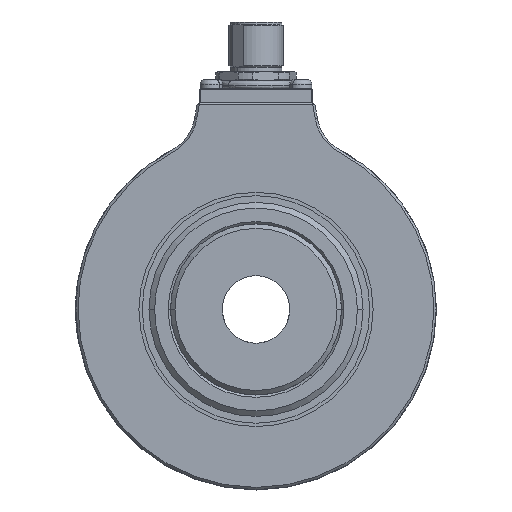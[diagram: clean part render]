
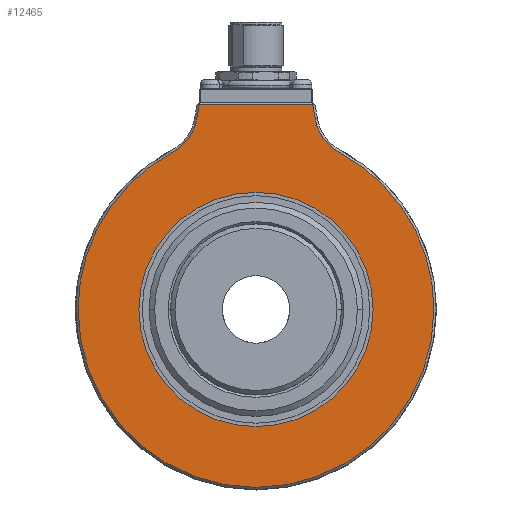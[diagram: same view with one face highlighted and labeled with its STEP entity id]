
A CAD part, left-side view. The second image highlights one B-rep face of the part: STEP entity #12465.
In plain terms, the highlighted planar face has unit normal (-1, 0, 0).
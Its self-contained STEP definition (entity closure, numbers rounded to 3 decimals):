
#59 = ORIENTED_EDGE ( 'NONE', *, *, #5131, .T. ) ;
#91 = ORIENTED_EDGE ( 'NONE', *, *, #8584, .T. ) ;
#604 = ORIENTED_EDGE ( 'NONE', *, *, #7840, .T. ) ;
#643 = ORIENTED_EDGE ( 'NONE', *, *, #4840, .T. ) ;
#653 = ORIENTED_EDGE ( 'NONE', *, *, #3924, .T. ) ;
#1402 = LINE ( 'NONE', #15128, #14177 ) ;
#1407 = VERTEX_POINT ( 'NONE', #9345 ) ;
#1432 = CARTESIAN_POINT ( 'NONE',  ( -26., 40., 0. ) ) ;
#1554 = CARTESIAN_POINT ( 'NONE',  ( -26., 21.188, -3.317 ) ) ;
#1599 = VERTEX_POINT ( 'NONE', #6008 ) ;
#1712 = VERTEX_POINT ( 'NONE', #2542 ) ;
#2092 = CARTESIAN_POINT ( 'NONE',  ( -26., 0., 0. ) ) ;
#2288 = DIRECTION ( 'NONE',  ( 0., 1., 0. ) ) ;
#2368 = AXIS2_PLACEMENT_3D ( 'NONE', #9652, #16630, #5529 ) ;
#2538 = DIRECTION ( 'NONE',  ( 0., -1., 0. ) ) ;
#2542 = CARTESIAN_POINT ( 'NONE',  ( -26., 13.141, 42.32 ) ) ;
#2576 = DIRECTION ( 'NONE',  ( 1., 0., 0. ) ) ;
#3013 = LINE ( 'NONE', #1554, #5884 ) ;
#3178 = DIRECTION ( 'NONE',  ( 1., 0., 0. ) ) ;
#3324 = CIRCLE ( 'NONE', #9751, 10.5 ) ;
#3357 = DIRECTION ( 'NONE',  ( 0., -1., 0. ) ) ;
#3594 = AXIS2_PLACEMENT_3D ( 'NONE', #12365, #17984, #14949 ) ;
#3834 = AXIS2_PLACEMENT_3D ( 'NONE', #15726, #3178, #3357 ) ;
#3924 = EDGE_CURVE ( 'NONE', #9240, #14915, #15107, .T. ) ;
#4512 = EDGE_CURVE ( 'NONE', #5287, #8942, #1402, .T. ) ;
#4840 = EDGE_CURVE ( 'NONE', #14915, #5287, #3324, .T. ) ;
#4933 = CARTESIAN_POINT ( 'NONE',  ( -26., 26., 0. ) ) ;
#5131 = EDGE_CURVE ( 'NONE', #8942, #1599, #10500, .T. ) ;
#5158 = VERTEX_POINT ( 'NONE', #4933 ) ;
#5287 = VERTEX_POINT ( 'NONE', #17929 ) ;
#5316 = ORIENTED_EDGE ( 'NONE', *, *, #4512, .T. ) ;
#5529 = DIRECTION ( 'NONE',  ( 0., 1., 0. ) ) ;
#5651 = EDGE_CURVE ( 'NONE', #1599, #1712, #3013, .T. ) ;
#5884 = VECTOR ( 'NONE', #8411, 1000. ) ;
#5962 = CIRCLE ( 'NONE', #16215, 26. ) ;
#6008 = CARTESIAN_POINT ( 'NONE',  ( -26., 12.58, 45.5 ) ) ;
#6192 = DIRECTION ( 'NONE',  ( -1., 0., 0. ) ) ;
#6332 = ORIENTED_EDGE ( 'NONE', *, *, #5651, .T. ) ;
#6814 = ORIENTED_EDGE ( 'NONE', *, *, #8774, .T. ) ;
#7801 = AXIS2_PLACEMENT_3D ( 'NONE', #17471, #6192, #10676 ) ;
#7825 = CARTESIAN_POINT ( 'NONE',  ( -26., -26., 0. ) ) ;
#7840 = EDGE_CURVE ( 'NONE', #12695, #5158, #14607, .T. ) ;
#7939 = CIRCLE ( 'NONE', #10554, 39.5 ) ;
#8216 = CARTESIAN_POINT ( 'NONE',  ( -26., -18.551, 34.873 ) ) ;
#8278 = CARTESIAN_POINT ( 'NONE',  ( -26., -12.58, 45.5 ) ) ;
#8411 = DIRECTION ( 'NONE',  ( 0., 0.174, -0.985 ) ) ;
#8584 = EDGE_CURVE ( 'NONE', #1712, #17481, #11708, .T. ) ;
#8628 = EDGE_LOOP ( 'NONE', ( #5316, #59, #6332, #91, #16079, #6814, #653, #643 ) ) ;
#8774 = EDGE_CURVE ( 'NONE', #1407, #9240, #7939, .T. ) ;
#8942 = VERTEX_POINT ( 'NONE', #8278 ) ;
#9122 = DIRECTION ( 'NONE',  ( 0., 1., 0. ) ) ;
#9240 = VERTEX_POINT ( 'NONE', #11085 ) ;
#9345 = CARTESIAN_POINT ( 'NONE',  ( -26., 39.5, 0. ) ) ;
#9652 = CARTESIAN_POINT ( 'NONE',  ( -26., 0., 0. ) ) ;
#9751 = AXIS2_PLACEMENT_3D ( 'NONE', #13967, #2576, #14058 ) ;
#9837 = DIRECTION ( 'NONE',  ( -1., 0., 0. ) ) ;
#10155 = EDGE_CURVE ( 'NONE', #17481, #1407, #16754, .T. ) ;
#10500 = LINE ( 'NONE', #11871, #12461 ) ;
#10554 = AXIS2_PLACEMENT_3D ( 'NONE', #10936, #10757, #2538 ) ;
#10676 = DIRECTION ( 'NONE',  ( 0., -1., 0. ) ) ;
#10757 = DIRECTION ( 'NONE',  ( -1., 0., 0. ) ) ;
#10936 = CARTESIAN_POINT ( 'NONE',  ( -26., 0., 0. ) ) ;
#11085 = CARTESIAN_POINT ( 'NONE',  ( -26., -39.5, 0. ) ) ;
#11227 = EDGE_LOOP ( 'NONE', ( #16100, #604 ) ) ;
#11708 = CIRCLE ( 'NONE', #3834, 10.5 ) ;
#11871 = CARTESIAN_POINT ( 'NONE',  ( -26., 40., 45.5 ) ) ;
#12250 = EDGE_CURVE ( 'NONE', #5158, #12695, #5962, .T. ) ;
#12365 = CARTESIAN_POINT ( 'NONE',  ( -26., 0., 0. ) ) ;
#12461 = VECTOR ( 'NONE', #2288, 1000. ) ;
#12465 = ADVANCED_FACE ( 'NONE', ( #13676, #15346 ), #13934, .T. ) ;
#12695 = VERTEX_POINT ( 'NONE', #7825 ) ;
#12983 = AXIS2_PLACEMENT_3D ( 'NONE', #1432, #9837, #16638 ) ;
#13584 = DIRECTION ( 'NONE',  ( 1., 0., 0. ) ) ;
#13676 = FACE_OUTER_BOUND ( 'NONE', #8628, .T. ) ;
#13732 = DIRECTION ( 'NONE',  ( 0., 0.174, 0.985 ) ) ;
#13934 = PLANE ( 'NONE',  #12983 ) ;
#13967 = CARTESIAN_POINT ( 'NONE',  ( -26., -23.482, 44.143 ) ) ;
#14058 = DIRECTION ( 'NONE',  ( 0., -1., 0. ) ) ;
#14177 = VECTOR ( 'NONE', #13732, 1000. ) ;
#14607 = CIRCLE ( 'NONE', #2368, 26. ) ;
#14915 = VERTEX_POINT ( 'NONE', #8216 ) ;
#14949 = DIRECTION ( 'NONE',  ( 0., -1., 0. ) ) ;
#15066 = CARTESIAN_POINT ( 'NONE',  ( -26., 18.551, 34.873 ) ) ;
#15107 = CIRCLE ( 'NONE', #7801, 39.5 ) ;
#15128 = CARTESIAN_POINT ( 'NONE',  ( -26., -18.776, 10.364 ) ) ;
#15346 = FACE_BOUND ( 'NONE', #11227, .T. ) ;
#15726 = CARTESIAN_POINT ( 'NONE',  ( -26., 23.482, 44.143 ) ) ;
#16079 = ORIENTED_EDGE ( 'NONE', *, *, #10155, .T. ) ;
#16100 = ORIENTED_EDGE ( 'NONE', *, *, #12250, .T. ) ;
#16215 = AXIS2_PLACEMENT_3D ( 'NONE', #2092, #13584, #9122 ) ;
#16630 = DIRECTION ( 'NONE',  ( 1., 0., 0. ) ) ;
#16638 = DIRECTION ( 'NONE',  ( 0., -1., 0. ) ) ;
#16754 = CIRCLE ( 'NONE', #3594, 39.5 ) ;
#17471 = CARTESIAN_POINT ( 'NONE',  ( -26., 0., 0. ) ) ;
#17481 = VERTEX_POINT ( 'NONE', #15066 ) ;
#17929 = CARTESIAN_POINT ( 'NONE',  ( -26., -13.141, 42.32 ) ) ;
#17984 = DIRECTION ( 'NONE',  ( -1., 0., 0. ) ) ;
